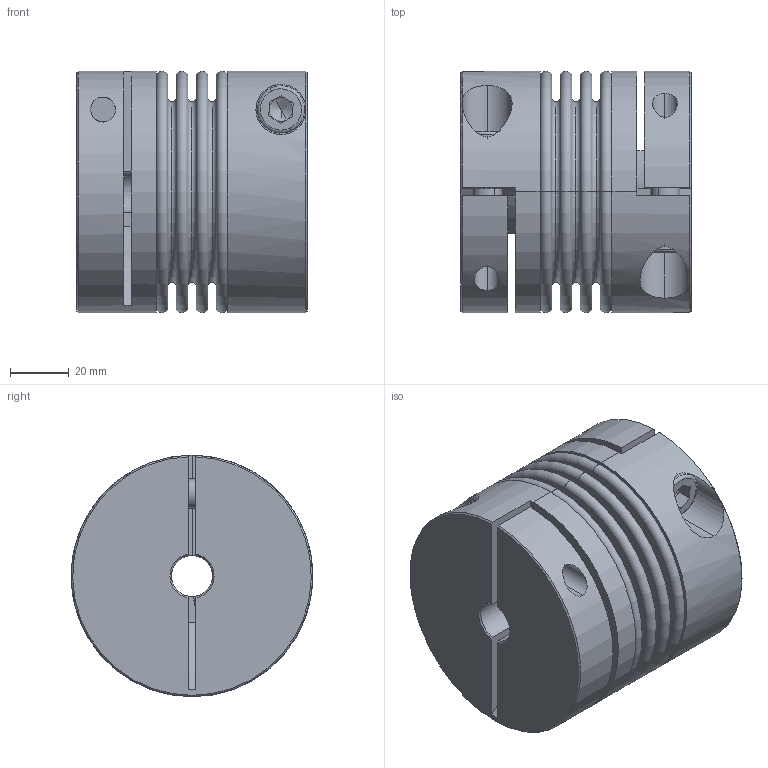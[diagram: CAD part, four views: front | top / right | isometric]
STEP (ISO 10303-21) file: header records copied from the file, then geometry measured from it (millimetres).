
FILE_DESCRIPTION (( 'STEP AP214' ), '1' );
FILE_NAME ('KB4C-80-78.STEP', '2011-01-19T17:35:30', ( '' ), ( 'KAPCAD' ), 'SwSTEP 2.0', 'SolidWorks 2002296', '' );
FILE_SCHEMA (( 'AUTOMOTIVE_DESIGN' ));
Length unit declared in the file: millimetre
Products named in the file (4): KB4C-80-78; Socket Head Cap Screw_DIN_DIN 912 M10 x 30 --- 30N; BK80-150_Standard; KN80-150C_Standard
Assembly tree (5 placements, depth 2):
  KB4C-80-78
    Socket Head Cap Screw_DIN_DIN 912 M10 x 30 --- 30N  x2
    KN80-150C_Standard  x2
    BK80-150_Standard
Bounding box: 78.4 x 82 x 82 mm (x, y, z)
Volume: 268020.2 mm3; surface area: 102823.4 mm2
Topology: 5 solids, 5 shells, 178 faces, 412 edges, 258 vertices
Faces by surface type: plane 72, torus 48, cylinder 42, cone 16
Entity records: 3736 total; most frequent: CARTESIAN_POINT 750, DIRECTION 699, ORIENTED_EDGE 536, AXIS2_PLACEMENT_3D 312, EDGE_CURVE 268, CIRCLE 182, VERTEX_POINT 169, EDGE_LOOP 147
